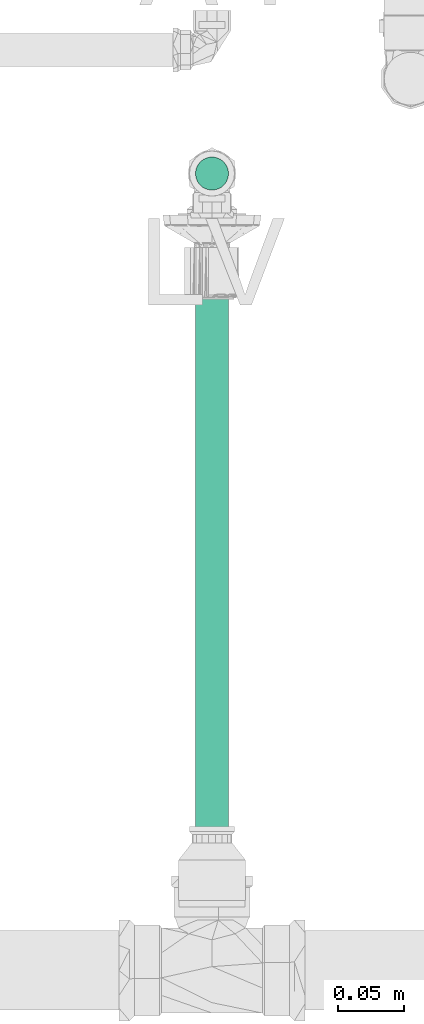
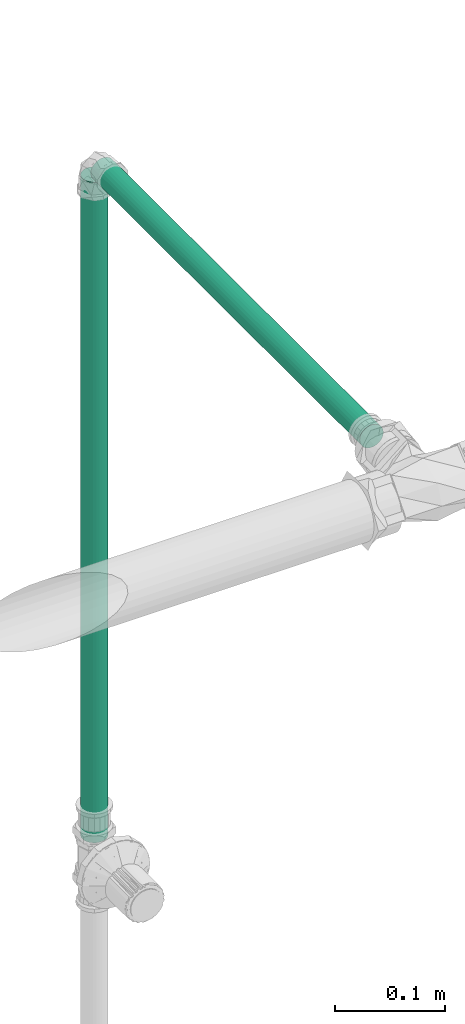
# One storey, part 255 of 589: 2 flow segments.
"""IFC2X3 building model written with IfcOpenShell, lengths in millimetres."""

import ifcopenshell
import ifcopenshell.guid

model = None  # the IFC model being written
_history = None  # IfcOwnerHistory: only IFC2X3 demands one
_inside = {}  # id of a spatial element -> (the spatial element, [elements in it])
_under = {}  # id of a project, library or spatial element -> (it, [spatial elements below it])
_declared = {}  # id of a project -> (the project, [libraries it declares])
_typed = {}  # id of a type object -> (the type object, [elements of that type])
_made_of = {}  # id of a material, layer set ... -> (it, [elements and type objects made of it])


def new_model(schema):
    """Start an empty IFC model of exactly this schema.

    Asked for "IFC4X3", IfcOpenShell would pick the latest addendum, in which some entities
    have other attributes; the version numbers below select the first issue.
    IFC2X3 requires an IfcOwnerHistory on every rooted entity: one is made here for all.
    """
    global model, _history
    if schema == "IFC4X3":
        model = ifcopenshell.file(schema_version=(4, 3, 0, 0))
    else:
        model = ifcopenshell.file(schema=schema)
    _inside.clear()
    _under.clear()
    _declared.clear()
    _typed.clear()
    _made_of.clear()
    _history = None
    if model.schema == "IFC2X3":
        org = make("IfcOrganization", Name="unknown")
        user = make(
            "IfcPersonAndOrganization",
            ThePerson=make("IfcPerson", FamilyName="unknown"),
            TheOrganization=org,
        )
        app = make(
            "IfcApplication",
            ApplicationDeveloper=org,
            Version="unknown",
            ApplicationFullName="unknown",
            ApplicationIdentifier="unknown",
        )
        _history = make(
            "IfcOwnerHistory",
            OwningUser=user,
            OwningApplication=app,
            ChangeAction="ADDED",
            CreationDate=0,
        )
    return model


def make(cls, **values):
    """One entity of the class cls with the attributes given. An attribute that is None is left unset."""
    return model.create_entity(
        cls, **{name: value for name, value in values.items() if value is not None}
    )


def entity(cls, *values):
    """Any entity or typed value of the class cls, its attributes in the order of the schema. None: left unset."""
    e = model.create_entity(cls)
    for i, value in enumerate(values):
        if value is not None:
            e[i] = value
    return e


def rooted(cls, **values):
    """An entity with a GlobalId (a new one), such as an element, a storey or a relation."""
    return make(cls, GlobalId=ifcopenshell.guid.new(), OwnerHistory=_history, **values)


def si_unit(unit_type, name, prefix=None):
    """IfcSIUnit, for example si_unit("LENGTHUNIT", "METRE", prefix="MILLI")."""
    return make("IfcSIUnit", UnitType=unit_type, Prefix=prefix, Name=name)


def converted_unit(unit_type, name, factor, base, dimensions=None, offset=None):
    """IfcConversionBasedUnit, such as the inch: factor (a typed value) times the base unit."""
    return make(
        "IfcConversionBasedUnit"
        if offset is None
        else "IfcConversionBasedUnitWithOffset",
        ConversionOffset=offset,
        Dimensions=None
        if dimensions is None
        else entity("IfcDimensionalExponents", *dimensions),
        UnitType=unit_type,
        Name=name,
        ConversionFactor=make(
            "IfcMeasureWithUnit", ValueComponent=factor, UnitComponent=base
        ),
    )


def derived_unit(unit_type, elements):
    """IfcDerivedUnit: a product of units, each with its exponent."""
    return make(
        "IfcDerivedUnit",
        Elements=[
            make("IfcDerivedUnitElement", Unit=unit, Exponent=power)
            for unit, power in elements
        ],
        UnitType=unit_type,
    )


def assignment(units):
    """IfcUnitAssignment: the units of a project."""
    return None if units is None else make("IfcUnitAssignment", Units=units)


def point(xyz):
    """IfcCartesianPoint."""
    return None if xyz is None else make("IfcCartesianPoint", Coordinates=xyz)


def direction(xyz):
    """IfcDirection."""
    return None if xyz is None else make("IfcDirection", DirectionRatios=xyz)


def frame(location, z_axis=None, x_axis=None):
    """IfcAxis2Placement3D, a coordinate frame: its origin and axes. An axis left out is left unset."""
    return make(
        "IfcAxis2Placement3D",
        Location=point(location),
        Axis=direction(z_axis),
        RefDirection=direction(x_axis),
    )


def frame_2d(location, x_axis=None):
    """IfcAxis2Placement2D, a coordinate frame in the plane: its origin and x axis."""
    return make(
        "IfcAxis2Placement2D", Location=point(location), RefDirection=direction(x_axis)
    )


def origin():
    """The frame at (0, 0, 0) with its axes left unset."""
    return frame((0.0, 0.0, 0.0))


def origin_2d_with_axis():
    """The frame at (0, 0) in the plane with the x axis (1, 0) written out."""
    return frame_2d((0.0, 0.0), x_axis=(1.0, 0.0))


def place(relative_to, where):
    """IfcLocalPlacement: puts the frame where relative to a parent placement (None: the world)."""
    return make(
        "IfcLocalPlacement", PlacementRelTo=relative_to, RelativePlacement=where
    )


def context(
    kind, dimensions, precision=None, world=None, true_north=None, identifier=None
):
    """IfcGeometricRepresentationContext, for example the 3D "Model" context."""
    return make(
        "IfcGeometricRepresentationContext",
        ContextIdentifier=identifier,
        ContextType=kind,
        CoordinateSpaceDimension=dimensions,
        Precision=precision,
        WorldCoordinateSystem=world,
        TrueNorth=true_north,
    )


def subcontext(parent, identifier, kind, view, scale=None):
    """IfcGeometricRepresentationSubContext, for example "Body" below "Model"."""
    return make(
        "IfcGeometricRepresentationSubContext",
        ContextIdentifier=identifier,
        ContextType=kind,
        ParentContext=parent,
        TargetScale=scale,
        TargetView=view,
    )


def project(units=None, contexts=None):
    """IfcProject with its units and contexts."""
    return rooted(
        "IfcProject",
        Name="project",
        RepresentationContexts=contexts,
        UnitsInContext=assignment(units),
    )


def spatial(cls, under=None, at=None, **own):
    """A site, building, storey or space (cls), placed at a placement, below another one or the project."""
    s = rooted(cls, ObjectPlacement=at, **own)
    if under is not None:
        _under.setdefault(under.id(), (under, []))[1].append(s)
    return s


def profile(cls, at=None, kind="AREA", **sizes):
    """A parametric profile (cls). Its sizes go by their IFC names, for example OverallWidth=200.0."""
    return make(cls, ProfileType=kind, Position=at, **sizes)


def circle(**sizes):
    """IfcCircleProfileDef."""
    return profile("IfcCircleProfileDef", **sizes)


def extrude(swept, where, along, depth):
    """IfcExtrudedAreaSolid: the profile swept, set in the frame where, extruded along a direction by depth."""
    return make(
        "IfcExtrudedAreaSolid",
        SweptArea=swept,
        Position=where,
        ExtrudedDirection=direction(along),
        Depth=depth,
    )


def shape(context_of_items, identifier, shape_type, items):
    """IfcShapeRepresentation: the items that make up one representation, for example the "Body"."""
    return make(
        "IfcShapeRepresentation",
        ContextOfItems=context_of_items,
        RepresentationIdentifier=identifier,
        RepresentationType=shape_type,
        Items=items,
    )


def made_of(thing, what):
    """Note that an element or type object is made of a material, layer set ...; save() writes the relation."""
    if what is not None:
        _made_of.setdefault(what.id(), (what, []))[1].append(thing)
    return thing


def type_object(cls, material=None, **own):
    """A type object (cls), such as IfcWallType, which elements share."""
    return made_of(rooted(cls, **own), material)


def element(
    cls,
    number,
    at=None,
    inside=None,
    cuts=None,
    type_object=None,
    material=None,
    context=None,
    identifier="Body",
    shape_type=None,
    held_by="IfcProductDefinitionShape",
    body=None,
    shapes=None,
    **own,
):
    """One element of the class cls, such as IfcWall. Its Tag is "e" and its number.

    at: its placement. inside: the storey or other place that contains it. cuts: it is an
    opening in that element (IfcRelVoidsElement). A single representation is given by context,
    identifier, shape_type and body (its items); several are given by shapes. held_by: the class
    of the entity that holds the representations. save() writes the other relations.
    """
    e = rooted(cls, Tag="e%d" % number, ObjectPlacement=at, **own)
    if body is not None:
        shapes = [shape(context, identifier, shape_type, body)]
    if shapes is not None:
        e.Representation = make(held_by, Representations=shapes)
    if inside is not None:
        _inside.setdefault(inside.id(), (inside, []))[1].append(e)
    if cuts is not None:
        rooted(
            "IfcRelVoidsElement", RelatingBuildingElement=cuts, RelatedOpeningElement=e
        )
    if type_object is not None:
        _typed.setdefault(type_object.id(), (type_object, []))[1].append(e)
    return made_of(e, material)


def aggregate(whole, parts):
    """IfcRelAggregates: a whole, such as a stair, and the parts it consists of."""
    return rooted("IfcRelAggregates", RelatingObject=whole, RelatedObjects=parts)


def save(model, path):
    """Write the relations noted so far, then the file.

    IfcRelAggregates (storeys below a building ...), IfcRelContainedInSpatialStructure (elements
    in a storey), IfcRelDefinesByType, IfcRelAssociatesMaterial and IfcRelDeclares: one each for
    every whole, place, type object, material and project.
    """
    for whole, parts in _under.values():
        aggregate(whole, parts)
    for where, things in _inside.values():
        rooted(
            "IfcRelContainedInSpatialStructure",
            RelatedElements=things,
            RelatingStructure=where,
        )
    for kind, things in _typed.values():
        rooted("IfcRelDefinesByType", RelatedObjects=things, RelatingType=kind)
    for what, things in _made_of.values():
        rooted("IfcRelAssociatesMaterial", RelatedObjects=things, RelatingMaterial=what)
    for by, libraries in _declared.values():
        rooted("IfcRelDeclares", RelatingContext=by, RelatedDefinitions=libraries)
    model.write(path)


model = new_model("IFC2X3")

# Units and contexts
model_context = context("Model", 3, precision=0.01, world=origin(), true_north=direction((6.123031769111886e-17, 1.0)))
body_context = subcontext(model_context, "Body", "Model", "MODEL_VIEW")
ifc_project = project(units=[si_unit("LENGTHUNIT", "METRE", prefix="MILLI"), si_unit("AREAUNIT", "SQUARE_METRE"), si_unit("VOLUMEUNIT", "CUBIC_METRE"), converted_unit("PLANEANGLEUNIT", "DEGREE", entity("IfcRatioMeasure", 0.017453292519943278), si_unit("PLANEANGLEUNIT", "RADIAN"), dimensions=[0, 0, 0, 0, 0, 0, 0]), si_unit("MASSUNIT", "GRAM", prefix="KILO"), derived_unit("MASSDENSITYUNIT", [(si_unit("MASSUNIT", "GRAM", prefix="KILO"), 1), (si_unit("LENGTHUNIT", "METRE"), -3)]), derived_unit("IONCONCENTRATIONUNIT", [(si_unit("MASSUNIT", "GRAM", prefix="KILO"), 1), (si_unit("LENGTHUNIT", "METRE"), -3)]), derived_unit("MOMENTOFINERTIAUNIT", [(si_unit("LENGTHUNIT", "METRE"), 4)]), si_unit("TIMEUNIT", "SECOND"), si_unit("FREQUENCYUNIT", "HERTZ"), si_unit("THERMODYNAMICTEMPERATUREUNIT", "DEGREE_CELSIUS"), derived_unit("THERMALTRANSMITTANCEUNIT", [(si_unit("MASSUNIT", "GRAM", prefix="KILO"), 1), (si_unit("THERMODYNAMICTEMPERATUREUNIT", "KELVIN"), -1), (si_unit("TIMEUNIT", "SECOND"), -3)]), derived_unit("THERMALCONDUCTANCEUNIT", [(si_unit("MASSUNIT", "GRAM", prefix="KILO"), 1), (si_unit("THERMODYNAMICTEMPERATUREUNIT", "KELVIN"), -1), (si_unit("TIMEUNIT", "SECOND"), -3), (si_unit("LENGTHUNIT", "METRE"), 1)]), derived_unit("VOLUMETRICFLOWRATEUNIT", [(si_unit("LENGTHUNIT", "METRE"), 3), (si_unit("TIMEUNIT", "SECOND"), -1)]), derived_unit("MASSFLOWRATEUNIT", [(si_unit("MASSUNIT", "GRAM", prefix="KILO"), 1), (si_unit("TIMEUNIT", "SECOND"), -1)]), derived_unit("ROTATIONALFREQUENCYUNIT", [(si_unit("TIMEUNIT", "SECOND"), -1)]), si_unit("ELECTRICCURRENTUNIT", "AMPERE"), si_unit("ELECTRICVOLTAGEUNIT", "VOLT"), si_unit("POWERUNIT", "WATT"), si_unit("FORCEUNIT", "NEWTON", prefix="KILO"), si_unit("ILLUMINANCEUNIT", "LUX"), si_unit("LUMINOUSFLUXUNIT", "LUMEN"), si_unit("LUMINOUSINTENSITYUNIT", "CANDELA"), derived_unit("USERDEFINED", [(si_unit("MASSUNIT", "GRAM", prefix="KILO"), -1), (si_unit("LENGTHUNIT", "METRE"), -2), (si_unit("TIMEUNIT", "SECOND"), 3), (si_unit("LUMINOUSFLUXUNIT", "LUMEN"), 1)]), derived_unit("USERDEFINED", [(si_unit("MASSUNIT", "GRAM", prefix="KILO"), 1), (si_unit("TIMEUNIT", "SECOND"), -3), (si_unit("LENGTHUNIT", "METRE"), 3), (si_unit("ELECTRICCURRENTUNIT", "AMPERE"), -2)]), derived_unit("SOUNDPOWERUNIT", [(si_unit("MASSUNIT", "GRAM", prefix="KILO"), 1), (si_unit("TIMEUNIT", "SECOND"), -3), (si_unit("LENGTHUNIT", "METRE"), 2)]), derived_unit("SOUNDPRESSUREUNIT", [(si_unit("MASSUNIT", "GRAM", prefix="KILO"), 1), (si_unit("LENGTHUNIT", "METRE"), -1), (si_unit("TIMEUNIT", "SECOND"), -2)]), derived_unit("LINEARVELOCITYUNIT", [(si_unit("LENGTHUNIT", "METRE"), 1), (si_unit("TIMEUNIT", "SECOND"), -1)]), si_unit("PRESSUREUNIT", "PASCAL"), derived_unit("USERDEFINED", [(si_unit("MASSUNIT", "GRAM", prefix="KILO"), 1), (si_unit("LENGTHUNIT", "METRE"), -2), (si_unit("TIMEUNIT", "SECOND"), -2)]), derived_unit("LINEARFORCEUNIT", [(si_unit("MASSUNIT", "GRAM", prefix="KILO"), 1), (si_unit("TIMEUNIT", "SECOND"), -2)]), derived_unit("PLANARFORCEUNIT", [(si_unit("MASSUNIT", "GRAM", prefix="KILO"), 1), (si_unit("LENGTHUNIT", "METRE"), -1), (si_unit("TIMEUNIT", "SECOND"), -2)]), derived_unit("SPECIFICHEATCAPACITYUNIT", [(si_unit("THERMODYNAMICTEMPERATUREUNIT", "KELVIN"), -1), (si_unit("LENGTHUNIT", "METRE"), 2), (si_unit("TIMEUNIT", "SECOND"), -2)]), derived_unit("HEATINGVALUEUNIT", [(si_unit("LENGTHUNIT", "METRE"), 2), (si_unit("TIMEUNIT", "SECOND"), -2)]), derived_unit("VAPORPERMEABILITYUNIT", [(si_unit("LENGTHUNIT", "METRE"), -1), (si_unit("TIMEUNIT", "SECOND"), 1)]), derived_unit("DYNAMICVISCOSITYUNIT", [(si_unit("MASSUNIT", "GRAM", prefix="KILO"), 1), (si_unit("TIMEUNIT", "SECOND"), -1), (si_unit("LENGTHUNIT", "METRE"), -1)]), derived_unit("THERMALEXPANSIONCOEFFICIENTUNIT", [(si_unit("THERMODYNAMICTEMPERATUREUNIT", "KELVIN"), -1)]), derived_unit("MODULUSOFELASTICITYUNIT", [(si_unit("MASSUNIT", "GRAM", prefix="KILO"), 1), (si_unit("LENGTHUNIT", "METRE"), -1), (si_unit("TIMEUNIT", "SECOND"), -2)]), derived_unit("ISOTHERMALMOISTURECAPACITYUNIT", [(si_unit("LENGTHUNIT", "METRE"), 3), (si_unit("MASSUNIT", "GRAM", prefix="KILO"), -1)]), derived_unit("MOISTUREDIFFUSIVITYUNIT", [(si_unit("TIMEUNIT", "SECOND"), -1), (si_unit("LENGTHUNIT", "METRE"), 2)])], contexts=[model_context])

# Site, building, storey
site_placement = place(None, origin())
site = spatial("IfcSite", under=ifc_project, at=site_placement, Name="Default", CompositionType="ELEMENT")
building_placement = place(site_placement, origin())
building = spatial("IfcBuilding", under=site, at=building_placement, CompositionType="ELEMENT")
storey_placement = place(building_placement, frame((0.0, 0.0, 100.0)))
storey = spatial("IfcBuildingStorey", under=building, at=storey_placement, Name="TÉRREO", CompositionType="ELEMENT", Elevation=100.0)

# Flow segments
pipe_segment_type = type_object("IfcPipeSegmentType", Name="Tipos de tubos:PVC Marrom Soldável", PredefinedType="NOTDEFINED")
flow_segment_1_placement = place(storey_placement, origin())
element("IfcFlowSegment", 1, at=flow_segment_1_placement, inside=storey, type_object=pipe_segment_type, Name="Tipos de tubos:PVC Marrom Soldável", ObjectType="Tipos de tubos:PVC Marrom Soldável", context=body_context, shape_type="SweptSolid", body=[
    extrude(circle(Radius=12.5, at=origin_2d_with_axis()), frame((2459.484498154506, 2520.6575575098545, 2970.0), z_axis=(0.0, 1.0, 0.0), x_axis=(-1.0, 0.0, 0.0)), (0.0, 0.0, 1.0), 489.8127602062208),
])
flow_segment_2_placement = place(storey_placement, origin())
element("IfcFlowSegment", 2, at=flow_segment_2_placement, inside=storey, type_object=pipe_segment_type, Name="Tipos de tubos:PVC Marrom Soldável", ObjectType="Tipos de tubos:PVC Marrom Soldável", context=body_context, shape_type="SweptSolid", body=[
    extrude(circle(Radius=12.5, at=origin_2d_with_axis()), frame((2459.484498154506, 3025.8703177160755, 2220.0), z_axis=(0.0, 0.0, 1.0), x_axis=(-1.0, 0.0, 0.0)), (0.0, 0.0, 1.0), 734.6000000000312),
])

save(model, "model.ifc")
